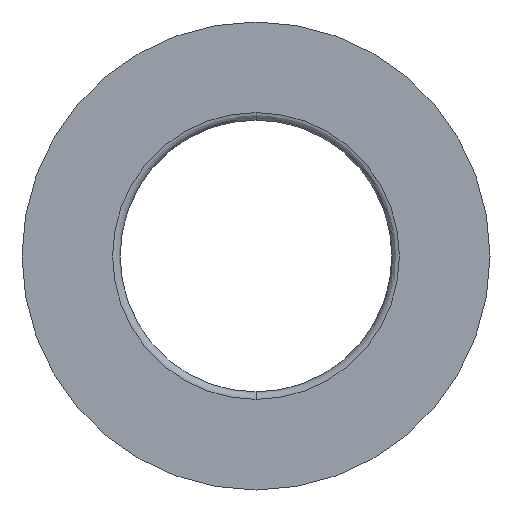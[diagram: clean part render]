
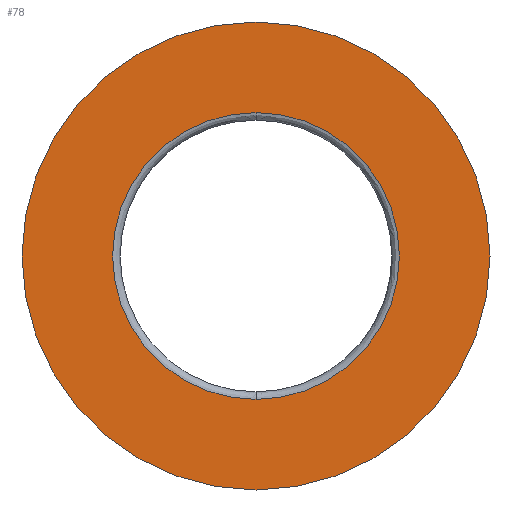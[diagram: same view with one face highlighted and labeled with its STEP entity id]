
A CAD part, left-side view. The second image highlights one B-rep face of the part: STEP entity #78.
In plain terms, the highlighted free-form (B-spline) face has degree [1, 1] with [2, 2] control points.
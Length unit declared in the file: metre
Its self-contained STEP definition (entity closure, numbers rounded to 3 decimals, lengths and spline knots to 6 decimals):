
#78 = ADVANCED_FACE( '', ( #103, #104 ), #105, .T. );
#103 = FACE_BOUND( '', #153, .T. );
#104 = FACE_OUTER_BOUND( '', #154, .T. );
#105 = B_SPLINE_SURFACE_WITH_KNOTS( '', 1, 1, ( ( #155, #156 ), ( #157, #158 ) ), .UNSPECIFIED., .F., .F., .F., ( 2, 2 ), ( 2, 2 ), ( 0., 1. ), ( 0., 1. ), .UNSPECIFIED. );
#153 = EDGE_LOOP( '', ( #313, #314 ) );
#154 = EDGE_LOOP( '', ( #315, #316 ) );
#155 = CARTESIAN_POINT( '', ( 0., -0.015686, -0.015686 ) );
#156 = CARTESIAN_POINT( '', ( 0., 0.015686, -0.015686 ) );
#157 = CARTESIAN_POINT( '', ( 0., -0.015686, 0.015686 ) );
#158 = CARTESIAN_POINT( '', ( 0., 0.015686, 0.015686 ) );
#313 = ORIENTED_EDGE( '', *, *, #445, .T. );
#314 = ORIENTED_EDGE( '', *, *, #446, .T. );
#315 = ORIENTED_EDGE( '', *, *, #447, .T. );
#316 = ORIENTED_EDGE( '', *, *, #448, .T. );
#445 = EDGE_CURVE( '', #491, #492, #493, .F. );
#446 = EDGE_CURVE( '', #492, #491, #494, .F. );
#447 = EDGE_CURVE( '', #495, #496, #497, .F. );
#448 = EDGE_CURVE( '', #496, #495, #498, .F. );
#491 = VERTEX_POINT( '', #559 );
#492 = VERTEX_POINT( '', #560 );
#493 = CIRCLE( '', #561, 0.0095 );
#494 = CIRCLE( '', #562, 0.0095 );
#495 = VERTEX_POINT( '', #563 );
#496 = VERTEX_POINT( '', #564 );
#497 = CIRCLE( '', #565, 0.0155 );
#498 = CIRCLE( '', #566, 0.0155 );
#559 = CARTESIAN_POINT( '', ( 0., 0., -0.0095 ) );
#560 = CARTESIAN_POINT( '', ( 0., 0., 0.0095 ) );
#561 = AXIS2_PLACEMENT_3D( '', #683, #684, #685 );
#562 = AXIS2_PLACEMENT_3D( '', #686, #687, #688 );
#563 = CARTESIAN_POINT( '', ( 0., 0., 0.0155 ) );
#564 = CARTESIAN_POINT( '', ( 0., 0., -0.0155 ) );
#565 = AXIS2_PLACEMENT_3D( '', #689, #690, #691 );
#566 = AXIS2_PLACEMENT_3D( '', #692, #693, #694 );
#683 = CARTESIAN_POINT( '', ( 0., 0., 0. ) );
#684 = DIRECTION( '', ( -1., 0., 0. ) );
#685 = DIRECTION( '', ( 0., -1., 0. ) );
#686 = CARTESIAN_POINT( '', ( 0., 0., 0. ) );
#687 = DIRECTION( '', ( -1., 0., 0. ) );
#688 = DIRECTION( '', ( 0., -1., 0. ) );
#689 = CARTESIAN_POINT( '', ( 0., 0., 0. ) );
#690 = DIRECTION( '', ( 1., 0., 0. ) );
#691 = DIRECTION( '', ( 0., 0., -1. ) );
#692 = CARTESIAN_POINT( '', ( 0., 0., 0. ) );
#693 = DIRECTION( '', ( 1., 0., 0. ) );
#694 = DIRECTION( '', ( 0., 0., -1. ) );
